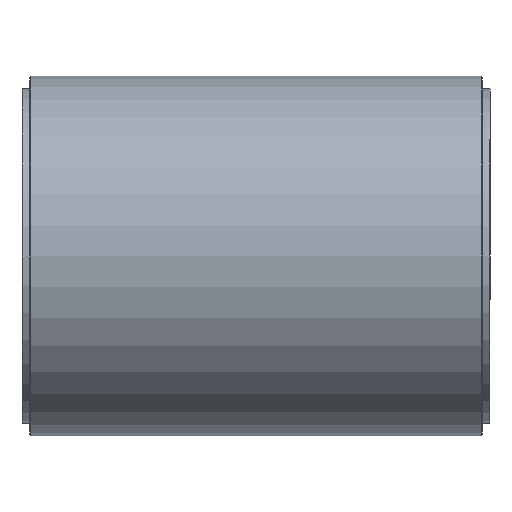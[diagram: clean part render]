
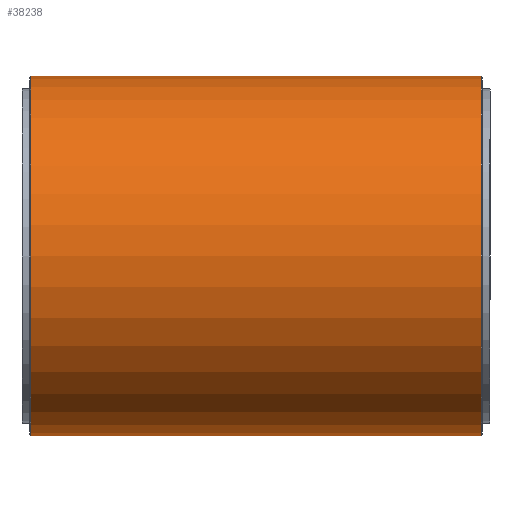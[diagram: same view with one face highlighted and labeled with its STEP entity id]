
A CAD part, front view. The second image highlights one B-rep face of the part: STEP entity #38238.
In plain terms, the highlighted cylindrical face has radius 71.5 mm (diameter 143 mm), a full revolution.
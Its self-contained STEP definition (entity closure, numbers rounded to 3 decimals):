
#1406=B_SPLINE_CURVE_WITH_KNOTS('',3,(#67854,#67855,#67856,#67857,#67858,
#67859,#67860,#67861,#67862,#67863,#67864,#67865,#67866,#67867,#67868,#67869,
#67870,#67871,#67872,#67873,#67874,#67875,#67876,#67877,#67878,#67879),
 .UNSPECIFIED.,.F.,.F.,(4,2,2,2,2,2,2,2,2,2,2,2,4),(0.,0.491,
0.982,1.473,1.963,2.454,2.945,
3.436,3.927,4.418,4.909,5.4,
5.89),.UNSPECIFIED.);
#1407=B_SPLINE_CURVE_WITH_KNOTS('',3,(#67880,#67881,#67882,#67883,#67884,
#67885,#67886,#67887,#67888,#67889),.UNSPECIFIED.,.F.,.F.,(4,2,2,2,4),(5.89,
6.381,6.872,7.363,7.854),
 .UNSPECIFIED.);
#1658=FACE_BOUND('',#6975,.T.);
#4749=FACE_OUTER_BOUND('',#6974,.T.);
#6974=EDGE_LOOP('',(#33271,#33272,#33273,#33274,#33275,#33276));
#6975=EDGE_LOOP('',(#33277,#33278));
#10641=LINE('',#68045,#14255);
#14255=VECTOR('',#48009,71.5);
#14871=CIRCLE('',#40341,71.5);
#14872=CIRCLE('',#40342,71.5);
#14873=CIRCLE('',#40344,71.5);
#14874=CIRCLE('',#40345,71.5);
#18192=VERTEX_POINT('',#67851);
#18193=VERTEX_POINT('',#67853);
#18210=VERTEX_POINT('',#68035);
#18211=VERTEX_POINT('',#68036);
#18212=VERTEX_POINT('',#68041);
#18213=VERTEX_POINT('',#68042);
#23244=EDGE_CURVE('',#18193,#18192,#1406,.T.);
#23245=EDGE_CURVE('',#18192,#18193,#1407,.T.);
#23265=EDGE_CURVE('',#18210,#18211,#14871,.T.);
#23266=EDGE_CURVE('',#18211,#18210,#14872,.T.);
#23268=EDGE_CURVE('',#18212,#18213,#14873,.T.);
#23269=EDGE_CURVE('',#18213,#18212,#14874,.T.);
#23270=EDGE_CURVE('',#18213,#18211,#10641,.T.);
#33271=ORIENTED_EDGE('',*,*,#23268,.F.);
#33272=ORIENTED_EDGE('',*,*,#23269,.F.);
#33273=ORIENTED_EDGE('',*,*,#23270,.T.);
#33274=ORIENTED_EDGE('',*,*,#23266,.T.);
#33275=ORIENTED_EDGE('',*,*,#23265,.T.);
#33276=ORIENTED_EDGE('',*,*,#23270,.F.);
#33277=ORIENTED_EDGE('',*,*,#23244,.T.);
#33278=ORIENTED_EDGE('',*,*,#23245,.T.);
#34285=CYLINDRICAL_SURFACE('',#40343,71.5);
#38238=ADVANCED_FACE('',(#4749,#1658),#34285,.T.);
#40341=AXIS2_PLACEMENT_3D('',#68037,#47998,#47999);
#40342=AXIS2_PLACEMENT_3D('',#68038,#48000,#48001);
#40343=AXIS2_PLACEMENT_3D('',#68040,#48003,#48004);
#40344=AXIS2_PLACEMENT_3D('',#68043,#48005,#48006);
#40345=AXIS2_PLACEMENT_3D('',#68044,#48007,#48008);
#47998=DIRECTION('center_axis',(1.,0.,0.));
#47999=DIRECTION('ref_axis',(0.,1.,0.));
#48000=DIRECTION('center_axis',(1.,0.,0.));
#48001=DIRECTION('ref_axis',(0.,1.,0.));
#48003=DIRECTION('center_axis',(1.,0.,0.));
#48004=DIRECTION('ref_axis',(0.,1.,0.));
#48005=DIRECTION('center_axis',(1.,0.,0.));
#48006=DIRECTION('ref_axis',(0.,1.,0.));
#48007=DIRECTION('center_axis',(1.,0.,0.));
#48008=DIRECTION('ref_axis',(0.,1.,0.));
#48009=DIRECTION('',(-1.,0.,0.));
#67851=CARTESIAN_POINT('',(13.,71.5,0.));
#67853=CARTESIAN_POINT('',(0.,70.308,13.));
#67854=CARTESIAN_POINT('Ctrl Pts',(0.,70.308,
13.));
#67855=CARTESIAN_POINT('Ctrl Pts',(-1.636,70.308,13.));
#67856=CARTESIAN_POINT('Ctrl Pts',(-3.379,70.371,12.672));
#67857=CARTESIAN_POINT('Ctrl Pts',(-6.581,70.598,11.344));
#67858=CARTESIAN_POINT('Ctrl Pts',(-8.04,70.757,10.345));
#67859=CARTESIAN_POINT('Ctrl Pts',(-10.345,71.056,8.04));
#67860=CARTESIAN_POINT('Ctrl Pts',(-11.344,71.215,6.581));
#67861=CARTESIAN_POINT('Ctrl Pts',(-12.672,71.438,3.379));
#67862=CARTESIAN_POINT('Ctrl Pts',(-13.,71.5,1.636));
#67863=CARTESIAN_POINT('Ctrl Pts',(-13.,71.5,-1.636));
#67864=CARTESIAN_POINT('Ctrl Pts',(-12.672,71.438,-3.379));
#67865=CARTESIAN_POINT('Ctrl Pts',(-11.344,71.215,-6.581));
#67866=CARTESIAN_POINT('Ctrl Pts',(-10.345,71.056,-8.04));
#67867=CARTESIAN_POINT('Ctrl Pts',(-8.04,70.757,-10.345));
#67868=CARTESIAN_POINT('Ctrl Pts',(-6.581,70.598,-11.344));
#67869=CARTESIAN_POINT('Ctrl Pts',(-3.379,70.371,-12.672));
#67870=CARTESIAN_POINT('Ctrl Pts',(-1.636,70.308,-13.));
#67871=CARTESIAN_POINT('Ctrl Pts',(1.636,70.308,-13.));
#67872=CARTESIAN_POINT('Ctrl Pts',(3.379,70.371,-12.672));
#67873=CARTESIAN_POINT('Ctrl Pts',(6.581,70.598,-11.344));
#67874=CARTESIAN_POINT('Ctrl Pts',(8.04,70.757,-10.345));
#67875=CARTESIAN_POINT('Ctrl Pts',(10.345,71.056,-8.04));
#67876=CARTESIAN_POINT('Ctrl Pts',(11.344,71.215,-6.581));
#67877=CARTESIAN_POINT('Ctrl Pts',(12.672,71.438,-3.379));
#67878=CARTESIAN_POINT('Ctrl Pts',(13.,71.5,-1.636));
#67879=CARTESIAN_POINT('Ctrl Pts',(13.,71.5,0.));
#67880=CARTESIAN_POINT('Ctrl Pts',(13.,71.5,0.));
#67881=CARTESIAN_POINT('Ctrl Pts',(13.,71.5,1.636));
#67882=CARTESIAN_POINT('Ctrl Pts',(12.672,71.438,3.379));
#67883=CARTESIAN_POINT('Ctrl Pts',(11.344,71.215,6.581));
#67884=CARTESIAN_POINT('Ctrl Pts',(10.345,71.056,8.04));
#67885=CARTESIAN_POINT('Ctrl Pts',(8.04,70.757,10.345));
#67886=CARTESIAN_POINT('Ctrl Pts',(6.581,70.598,11.344));
#67887=CARTESIAN_POINT('Ctrl Pts',(3.379,70.371,12.672));
#67888=CARTESIAN_POINT('Ctrl Pts',(1.636,70.308,13.));
#67889=CARTESIAN_POINT('Ctrl Pts',(0.,70.308,
13.));
#68035=CARTESIAN_POINT('',(-89.5,71.5,0.));
#68036=CARTESIAN_POINT('',(-89.5,-71.5,0.));
#68037=CARTESIAN_POINT('Origin',(-89.5,0.,0.));
#68038=CARTESIAN_POINT('Origin',(-89.5,0.,0.));
#68040=CARTESIAN_POINT('Origin',(0.,0.,
0.));
#68041=CARTESIAN_POINT('',(89.5,71.5,0.));
#68042=CARTESIAN_POINT('',(89.5,-71.5,0.));
#68043=CARTESIAN_POINT('Origin',(89.5,0.,0.));
#68044=CARTESIAN_POINT('Origin',(89.5,0.,0.));
#68045=CARTESIAN_POINT('',(0.,-71.5,0.));
